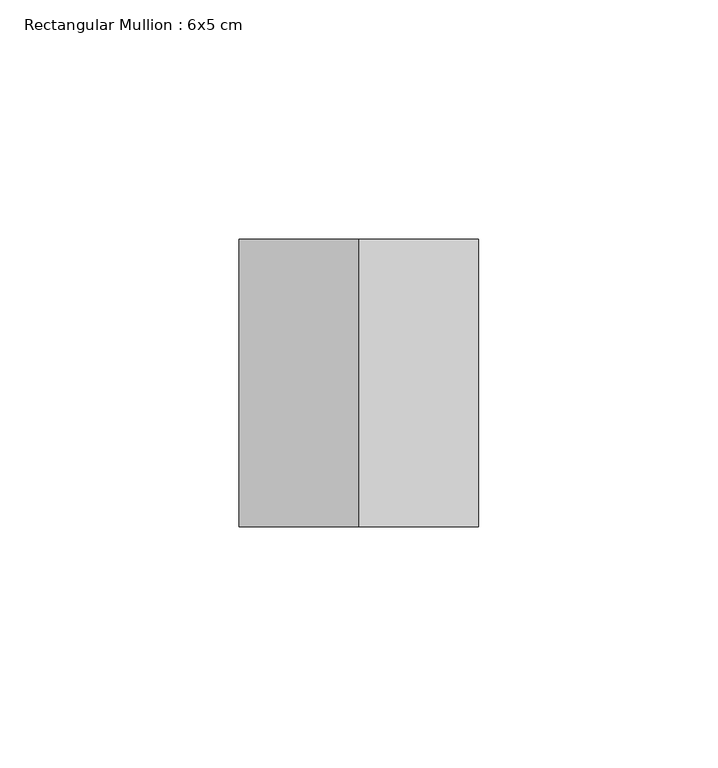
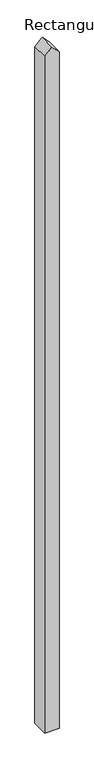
"""IFC4 building model written with IfcOpenShell, lengths in millimetres: member geometry, Rectangular Mullion : 6x5 cm."""

from ifc_helpers import new_model, si_unit, frame, origin, place, context, project, spatial, polyline, outline, extrude, source, transform, mapped, element, save


def rectangular_mullion_6x5_cm_38436df2(model_context):
    return source(origin(), model_context, "Body", "SweptSolid", [
        extrude(outline(polyline([(-98.3849277, 25.0), (-72.2841615, 0.0), (-98.3849277, -25.0), (-2610.0766272, -25.0), (-2610.0766272, 25.0), (-98.3849277, 25.0)])), frame((0.0, 20.0, 0.0), z_axis=(0.0, 1.0, 0.0), x_axis=(0.0, 0.0, 1.0)), (0.0, 0.0, 1.0), 60.0),
    ])


if __name__ == "__main__":
    model = new_model("IFC4")
    model_context = context("Model", 3, world=origin())
    ifc_project = project(units=[si_unit("LENGTHUNIT", "METRE", prefix="MILLI")], contexts=[model_context])
    site = spatial("IfcSite", under=ifc_project)
    building = spatial("IfcBuilding", under=site)
    placement = place(None, origin())
    rectangular_mullion_6x5_cm_shape = rectangular_mullion_6x5_cm_38436df2(model_context)
    element("IfcMember", 1, ObjectType="Rectangular Mullion : 6x5 cm", at=placement, inside=building, context=model_context, shape_type="MappedRepresentation", body=[
        mapped(rectangular_mullion_6x5_cm_shape, transform((0.0, 0.0, 0.0), x_axis=(1.0, 0.0, 0.0), y_axis=(0.0, 1.0, 0.0), z_axis=(0.0, 0.0, 1.0))),
    ])
    save(model, "model.ifc")
